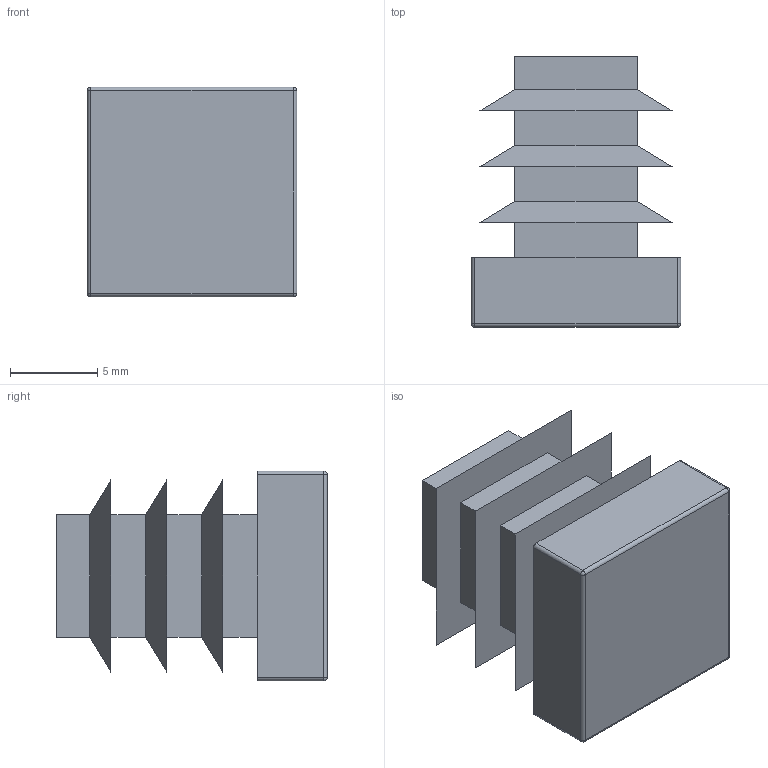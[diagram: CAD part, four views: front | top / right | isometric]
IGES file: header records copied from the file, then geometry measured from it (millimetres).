
Start section: SolidWorks IGES file using analytic representation for surfaces
Global section: file name: C:\HEMSIDA\cad\SLDPRT_2015\ifr\\ifr_12.igs; native system: SolidWorks 2015; preprocessor: SolidWorks 2015; author: Magnus; date: 150818.111749; units: millimetre
Bounding box: 12 x 15.5 x 12 mm (x, y, z)
Surface area: 1393.5 mm2 (no closed solid volume)
Topology: 0 solids, 0 shells, 55 faces, 256 edges, 252 vertices
Faces by surface type: bspline 43, revolution 12
